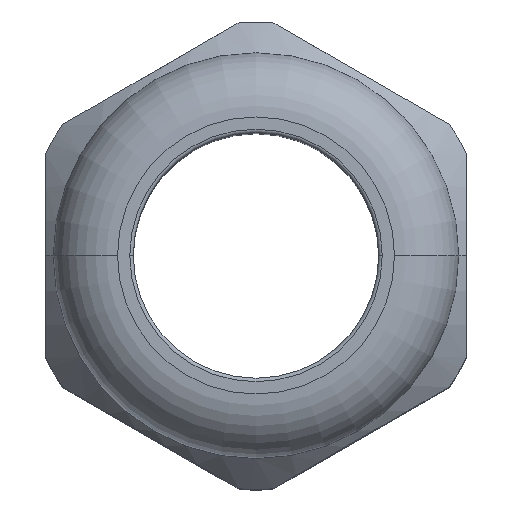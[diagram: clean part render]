
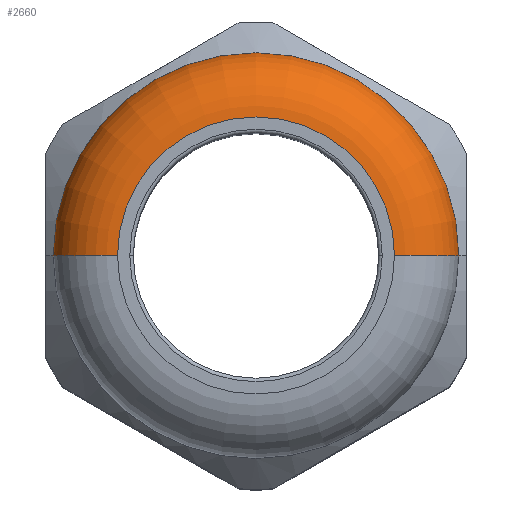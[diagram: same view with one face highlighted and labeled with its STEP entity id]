
A CAD part, top view. The second image highlights one B-rep face of the part: STEP entity #2660.
In plain terms, the highlighted toroidal (fillet/blend) face has major radius 11.85 mm and minor radius 5.5 mm.
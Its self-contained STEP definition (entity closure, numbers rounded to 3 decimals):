
#1 = EDGE_LOOP ( 'NONE', ( #20, #43, #50, #14 ) ) ;
#13 = EDGE_CURVE ( 'NONE', #311, #52, #987, .T. ) ;
#14 = ORIENTED_EDGE ( 'NONE', *, *, #13, .F. ) ;
#20 = ORIENTED_EDGE ( 'NONE', *, *, #312, .T. ) ;
#30 = EDGE_CURVE ( 'NONE', #48, #310, #1010, .T. ) ;
#32 = EDGE_CURVE ( 'NONE', #52, #310, #1005, .T. ) ;
#43 = ORIENTED_EDGE ( 'NONE', *, *, #30, .T. ) ;
#48 = VERTEX_POINT ( 'NONE', #1032 ) ;
#50 = ORIENTED_EDGE ( 'NONE', *, *, #32, .F. ) ;
#52 = VERTEX_POINT ( 'NONE', #1092 ) ;
#310 = VERTEX_POINT ( 'NONE', #1466 ) ;
#311 = VERTEX_POINT ( 'NONE', #1468 ) ;
#312 = EDGE_CURVE ( 'NONE', #311, #48, #1456, .T. ) ;
#983 = DIRECTION ( 'NONE',  ( 0., 0., -1. ) ) ;
#984 = DIRECTION ( 'NONE',  ( 0., -1., 0. ) ) ;
#985 = CARTESIAN_POINT ( 'NONE',  ( -11.85, 0., 44.5 ) ) ;
#986 = AXIS2_PLACEMENT_3D ( 'NONE', #985, #984, #983 ) ;
#987 = CIRCLE ( 'NONE', #986, 5.5 ) ;
#1001 = DIRECTION ( 'NONE',  ( -1., 0., 0. ) ) ;
#1002 = DIRECTION ( 'NONE',  ( 0., 0., -1. ) ) ;
#1003 = CARTESIAN_POINT ( 'NONE',  ( 0., 0., 44.5 ) ) ;
#1004 = AXIS2_PLACEMENT_3D ( 'NONE', #1003, #1002, #1001 ) ;
#1005 = CIRCLE ( 'NONE', #1004, 17.35 ) ;
#1006 = DIRECTION ( 'NONE',  ( -1., 0., 0. ) ) ;
#1007 = DIRECTION ( 'NONE',  ( 0., 1., 0. ) ) ;
#1008 = CARTESIAN_POINT ( 'NONE',  ( 11.85, 0., 44.5 ) ) ;
#1009 = AXIS2_PLACEMENT_3D ( 'NONE', #1008, #1007, #1006 ) ;
#1010 = CIRCLE ( 'NONE', #1009, 5.5 ) ;
#1032 = CARTESIAN_POINT ( 'NONE',  ( 11.85, 0., 50. ) ) ;
#1092 = CARTESIAN_POINT ( 'NONE',  ( -17.35, 0., 44.5 ) ) ;
#1452 = DIRECTION ( 'NONE',  ( -1., 0., 0. ) ) ;
#1453 = DIRECTION ( 'NONE',  ( 0., 0., -1. ) ) ;
#1454 = CARTESIAN_POINT ( 'NONE',  ( 0., 0., 50. ) ) ;
#1455 = AXIS2_PLACEMENT_3D ( 'NONE', #1454, #1453, #1452 ) ;
#1456 = CIRCLE ( 'NONE', #1455, 11.85 ) ;
#1466 = CARTESIAN_POINT ( 'NONE',  ( 17.35, 0., 44.5 ) ) ;
#1468 = CARTESIAN_POINT ( 'NONE',  ( -11.85, 0., 50. ) ) ;
#2528 = DIRECTION ( 'NONE',  ( 0., 0., -1. ) ) ;
#2529 = CARTESIAN_POINT ( 'NONE',  ( 0., 0., 44.5 ) ) ;
#2530 = AXIS2_PLACEMENT_3D ( 'NONE', #2529, #2528, #2578 ) ;
#2532 = TOROIDAL_SURFACE ( 'NONE', #2530, 11.85, 5.5 ) ;
#2533 = FACE_OUTER_BOUND ( 'NONE', #1, .T. ) ;
#2578 = DIRECTION ( 'NONE',  ( -1., 0., 0. ) ) ;
#2660 = ADVANCED_FACE ( 'NONE', ( #2533 ), #2532, .T. ) ;
